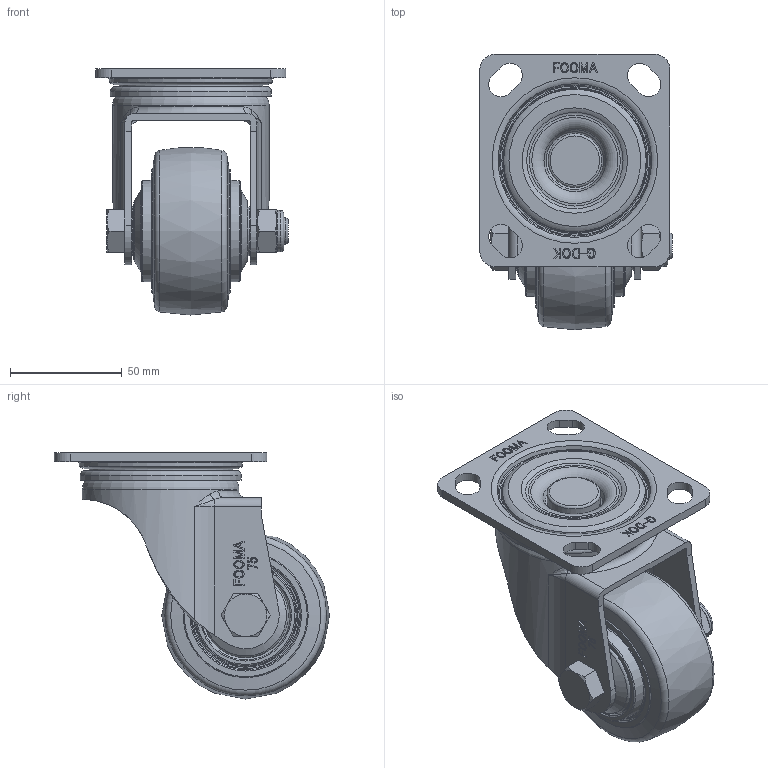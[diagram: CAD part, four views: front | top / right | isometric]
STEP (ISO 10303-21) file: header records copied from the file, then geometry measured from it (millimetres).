
FILE_DESCRIPTION(/* description */ (''),/* implementation_level */ '2;1');
FILE_NAME(/* name */ 'E:\★.DWG\★개발도면\PLM-SERIES(경중하중)-2016\홈페이지용\STEP\PLM-75-ASF-MUD.stp',/* time_stamp */ '2018-01-30T16:17:12+09:00',/* author */ ('장용하'),/* organization */ (''),/* preprocessor_version */ 'ST-DEVELOPER v16.13',/* originating_system */ 'Autodesk Inventor 2018',/* authorisation */ '');
FILE_SCHEMA (('AUTOMOTIVE_DESIGN { 1 0 10303 214 3 1 1 }'));
Length unit declared in the file: millimetre
Products named in the file (1): PLM-75-ASF-MUD ASSY_Shrinkwrap_1
Bounding box: 86 x 123 x 110 mm (x, y, z)
Volume: 263187.8 mm3; surface area: 66273.1 mm2
Topology: 1 solids, 1 shells, 705 faces, 1832 edges, 1187 vertices
Faces by surface type: plane 385, bspline 175, torus 67, cylinder 48, cone 30
Full cylindrical faces by diameter (mm): 12 x1, 18.5 x1, 22 x4, 24 x1, 24.4 x1, 36 x2, 38 x2, 40 x2, 53.029 x1, 54.5 x1, 55 x2, 64 x1, 64.418 x2, 70 x1, 70.6 x1, 72 x1
Entity records: 22431 total; most frequent: CARTESIAN_POINT 5800, ORIENTED_EDGE 3442, DIRECTION 2852, EDGE_CURVE 1721, VERTEX_POINT 1171, AXIS2_PLACEMENT_3D 1003, EDGE_LOOP 868, LINE 846
